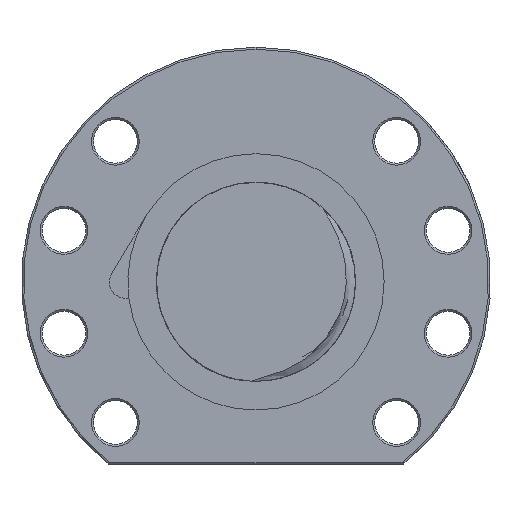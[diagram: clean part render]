
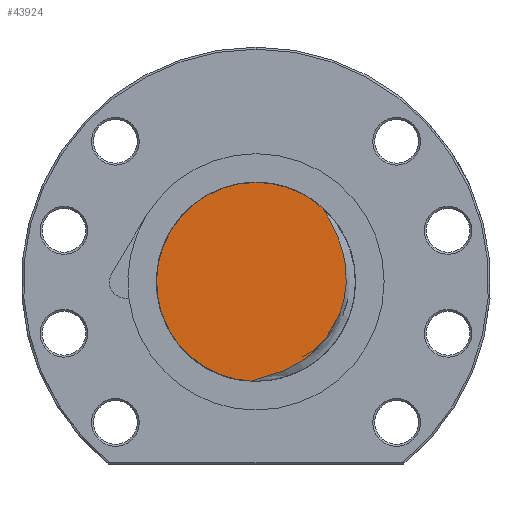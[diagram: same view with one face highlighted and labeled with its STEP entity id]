
A CAD part, left-side view. The second image highlights one B-rep face of the part: STEP entity #43924.
In plain terms, the highlighted planar face has unit normal (-1, 0, 0).
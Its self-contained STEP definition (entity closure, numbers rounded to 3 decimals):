
#22081 = CARTESIAN_POINT ( 'NONE',  ( -295., 0., 25. ) ) ;
#22083 = CARTESIAN_POINT ( 'NONE',  ( -295., 1.104, -24.976 ) ) ;
#22084 = DIRECTION ( 'NONE',  ( 0., 1., 0. ) ) ;
#22085 = DIRECTION ( 'NONE',  ( 1., 0., 0. ) ) ;
#22086 = AXIS2_PLACEMENT_3D ( 'NONE', #22092, #22085, #22084 ) ;
#22087 = CIRCLE ( 'NONE', #22086, 25. ) ;
#22092 = CARTESIAN_POINT ( 'NONE',  ( -295., 0., 0. ) ) ;
#37515 = DIRECTION ( 'NONE',  ( 0., 0., -1. ) ) ;
#37516 = DIRECTION ( 'NONE',  ( 1., 0., 0. ) ) ;
#37517 = CARTESIAN_POINT ( 'NONE',  ( -295., 0., 0. ) ) ;
#37518 = AXIS2_PLACEMENT_3D ( 'NONE', #37517, #37516, #37515 ) ;
#37519 = PLANE ( 'NONE',  #37518 ) ;
#37520 = FACE_OUTER_BOUND ( 'NONE', #43925, .T. ) ;
#37539 = CARTESIAN_POINT ( 'NONE',  ( -295., -16.879, 18.441 ) ) ;
#37540 = CARTESIAN_POINT ( 'NONE',  ( -295., -16.997, 18.169 ) ) ;
#37541 = CARTESIAN_POINT ( 'NONE',  ( -295., -17.134, 17.906 ) ) ;
#37542 = CARTESIAN_POINT ( 'NONE',  ( -295., -17.417, 17.384 ) ) ;
#37543 = CARTESIAN_POINT ( 'NONE',  ( -295., -17.564, 17.126 ) ) ;
#37544 = CARTESIAN_POINT ( 'NONE',  ( -295., -18.009, 16.352 ) ) ;
#37545 = CARTESIAN_POINT ( 'NONE',  ( -295., -18.308, 15.838 ) ) ;
#37546 = CARTESIAN_POINT ( 'NONE',  ( -295., -19.18, 14.283 ) ) ;
#37547 = CARTESIAN_POINT ( 'NONE',  ( -295., -19.727, 13.23 ) ) ;
#37548 = CARTESIAN_POINT ( 'NONE',  ( -295., -20.456, 11.605 ) ) ;
#37549 = CARTESIAN_POINT ( 'NONE',  ( -295., -20.684, 11.055 ) ) ;
#37550 = CARTESIAN_POINT ( 'NONE',  ( -295., -21.109, 9.942 ) ) ;
#37551 = CARTESIAN_POINT ( 'NONE',  ( -295., -21.305, 9.376 ) ) ;
#37552 = CARTESIAN_POINT ( 'NONE',  ( -295., -21.837, 7.671 ) ) ;
#37553 = CARTESIAN_POINT ( 'NONE',  ( -295., -22.117, 6.521 ) ) ;
#37554 = CARTESIAN_POINT ( 'NONE',  ( -295., -22.52, 4.193 ) ) ;
#37555 = CARTESIAN_POINT ( 'NONE',  ( -295., -22.644, 3.014 ) ) ;
#37556 = CARTESIAN_POINT ( 'NONE',  ( -295., -22.707, 1.224 ) ) ;
#37557 = CARTESIAN_POINT ( 'NONE',  ( -295., -22.707, 0.626 ) ) ;
#37558 = CARTESIAN_POINT ( 'NONE',  ( -295., -22.665, -0.561 ) ) ;
#37559 = CARTESIAN_POINT ( 'NONE',  ( -295., -22.623, -1.152 ) ) ;
#37560 = CARTESIAN_POINT ( 'NONE',  ( -295., -22.435, -2.914 ) ) ;
#37561 = CARTESIAN_POINT ( 'NONE',  ( -295., -22.227, -4.076 ) ) ;
#37562 = CARTESIAN_POINT ( 'NONE',  ( -295., -21.79, -5.802 ) ) ;
#37563 = CARTESIAN_POINT ( 'NONE',  ( -295., -21.623, -6.375 ) ) ;
#37564 = CARTESIAN_POINT ( 'NONE',  ( -295., -21.247, -7.51 ) ) ;
#37565 = CARTESIAN_POINT ( 'NONE',  ( -295., -21.039, -8.067 ) ) ;
#37566 = CARTESIAN_POINT ( 'NONE',  ( -295., -20.36, -9.708 ) ) ;
#37567 = CARTESIAN_POINT ( 'NONE',  ( -295., -19.831, -10.762 ) ) ;
#37568 = CARTESIAN_POINT ( 'NONE',  ( -295., -18.929, -12.285 ) ) ;
#37569 = CARTESIAN_POINT ( 'NONE',  ( -295., -18.609, -12.782 ) ) ;
#37570 = CARTESIAN_POINT ( 'NONE',  ( -295., -17.933, -13.757 ) ) ;
#37571 = CARTESIAN_POINT ( 'NONE',  ( -295., -17.575, -14.236 ) ) ;
#37572 = CARTESIAN_POINT ( 'NONE',  ( -295., -16.45, -15.631 ) ) ;
#37573 = CARTESIAN_POINT ( 'NONE',  ( -295., -15.643, -16.497 ) ) ;
#37574 = CARTESIAN_POINT ( 'NONE',  ( -295., -13.92, -18.109 ) ) ;
#37575 = CARTESIAN_POINT ( 'NONE',  ( -295., -13.005, -18.855 ) ) ;
#37576 = CARTESIAN_POINT ( 'NONE',  ( -295., -11.55, -19.883 ) ) ;
#37577 = CARTESIAN_POINT ( 'NONE',  ( -295., -11.05, -20.212 ) ) ;
#37578 = CARTESIAN_POINT ( 'NONE',  ( -295., -10.031, -20.835 ) ) ;
#37579 = CARTESIAN_POINT ( 'NONE',  ( -295., -9.513, -21.128 ) ) ;
#37580 = CARTESIAN_POINT ( 'NONE',  ( -295., -7.935, -21.959 ) ) ;
#37581 = CARTESIAN_POINT ( 'NONE',  ( -295., -6.85, -22.444 ) ) ;
#37582 = CARTESIAN_POINT ( 'NONE',  ( -295., -5.178, -23.082 ) ) ;
#37583 = CARTESIAN_POINT ( 'NONE',  ( -295., -4.614, -23.28 ) ) ;
#37584 = CARTESIAN_POINT ( 'NONE',  ( -295., -3.478, -23.648 ) ) ;
#37585 = CARTESIAN_POINT ( 'NONE',  ( -295., -2.906, -23.819 ) ) ;
#37586 = CARTESIAN_POINT ( 'NONE',  ( -295., -1.757, -24.142 ) ) ;
#37587 = CARTESIAN_POINT ( 'NONE',  ( -295., -1.18, -24.294 ) ) ;
#37588 = CARTESIAN_POINT ( 'NONE',  ( -295., -0.316, -24.528 ) ) ;
#37589 = CARTESIAN_POINT ( 'NONE',  ( -295., -0.028, -24.607 ) ) ;
#37590 = CARTESIAN_POINT ( 'NONE',  ( -295., 0.544, -24.777 ) ) ;
#37591 = CARTESIAN_POINT ( 'NONE',  ( -295., 0.828, -24.866 ) ) ;
#37592 = CARTESIAN_POINT ( 'NONE',  ( -295., 1.104, -24.976 ) ) ;
#37593 = B_SPLINE_CURVE_WITH_KNOTS ( 'NONE', 3,
 ( #37592, #37591, #37590, #37589, #37588, #37587, #37586, #37585, #37584, #37583, #37582, #37581, #37580, #37579, #37578, #37577, #37576, #37575, #37574, #37573, #37572, #37571, #37570, #37569, #37568, #37567, #37566, #37565, #37564, #37563, #37562, #37561, #37560, #37559, #37558, #37557, #37556, #37555, #37554, #37553, #37552, #37551, #37550, #37549, #37548, #37547, #37546, #37545, #37544, #37543, #37542, #37541, #37540, #37539 ),
 .UNSPECIFIED., .F., .F.,
 ( 4, 2, 2, 2, 2, 2, 2, 2, 2, 2, 2, 2, 2, 2, 2, 2, 2, 2, 2, 2, 2, 2, 2, 2, 2, 2, 4 ),
 ( 0.001, 0.002, 0.002, 0.004, 0.006, 0.008, 0.011, 0.013, 0.015, 0.018, 0.022, 0.024, 0.026, 0.029, 0.031, 0.033, 0.036, 0.038, 0.04, 0.043, 0.047, 0.049, 0.051, 0.054, 0.056, 0.057, 0.058 ),
 .UNSPECIFIED. ) ;
#43410 = EDGE_CURVE ( 'NONE', #43459, #43411, #46026, .T. ) ;
#43411 = VERTEX_POINT ( 'NONE', #46022 ) ;
#43457 = EDGE_CURVE ( 'NONE', #43458, #43459, #22087, .T. ) ;
#43458 = VERTEX_POINT ( 'NONE', #22083 ) ;
#43459 = VERTEX_POINT ( 'NONE', #22081 ) ;
#43775 = ORIENTED_EDGE ( 'NONE', *, *, #43410, .F. ) ;
#43924 = ADVANCED_FACE ( 'NONE', ( #37520 ), #37519, .F. ) ;
#43925 = EDGE_LOOP ( 'NONE', ( #43926, #43927, #43775 ) ) ;
#43926 = ORIENTED_EDGE ( 'NONE', *, *, #43457, .F. ) ;
#43927 = ORIENTED_EDGE ( 'NONE', *, *, #43928, .T. ) ;
#43928 = EDGE_CURVE ( 'NONE', #43458, #43411, #37593, .T. ) ;
#46022 = CARTESIAN_POINT ( 'NONE',  ( -295., -16.879, 18.441 ) ) ;
#46023 = DIRECTION ( 'NONE',  ( 0., 1., 0. ) ) ;
#46024 = DIRECTION ( 'NONE',  ( 1., 0., 0. ) ) ;
#46025 = AXIS2_PLACEMENT_3D ( 'NONE', #46031, #46024, #46023 ) ;
#46026 = CIRCLE ( 'NONE', #46025, 25. ) ;
#46031 = CARTESIAN_POINT ( 'NONE',  ( -295., 0., 0. ) ) ;
